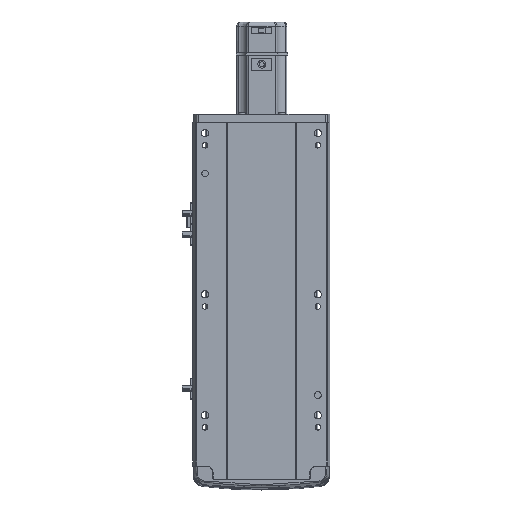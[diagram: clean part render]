
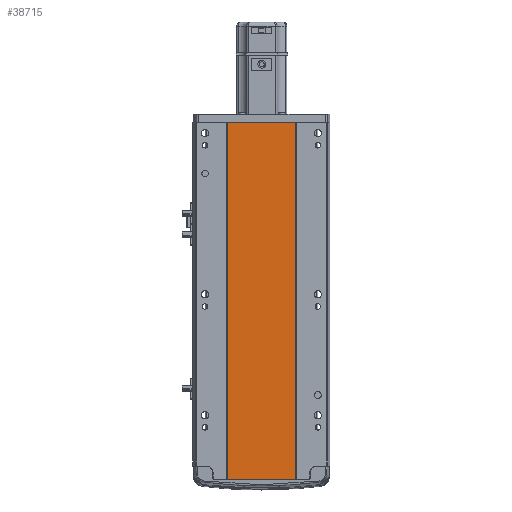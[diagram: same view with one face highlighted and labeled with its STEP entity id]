
A CAD part, front view. The second image highlights one B-rep face of the part: STEP entity #38715.
In plain terms, the highlighted planar face has unit normal (0, -1, 0).
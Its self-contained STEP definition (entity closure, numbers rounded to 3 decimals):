
#2747 = VERTEX_POINT ( 'NONE', #23897 ) ;
#3813 = CARTESIAN_POINT ( 'NONE',  ( 41.793, 0.998, 443.5 ) ) ;
#4052 = LINE ( 'NONE', #37102, #40891 ) ;
#4974 = VERTEX_POINT ( 'NONE', #12115 ) ;
#5576 = LINE ( 'NONE', #3813, #34946 ) ;
#6124 = CARTESIAN_POINT ( 'NONE',  ( 0., 0.999, 443.5 ) ) ;
#7493 = AXIS2_PLACEMENT_3D ( 'NONE', #43782, #36096, #18370 ) ;
#7911 = CARTESIAN_POINT ( 'NONE',  ( 41.793, 0.998, 0. ) ) ;
#9003 = LINE ( 'NONE', #30522, #38359 ) ;
#12115 = CARTESIAN_POINT ( 'NONE',  ( -41.791, 1., 443.5 ) ) ;
#12514 = EDGE_LOOP ( 'NONE', ( #40093, #43758, #28071, #26458 ) ) ;
#14465 = DIRECTION ( 'NONE',  ( 0., 0., -1. ) ) ;
#14552 = VERTEX_POINT ( 'NONE', #14683 ) ;
#14683 = CARTESIAN_POINT ( 'NONE',  ( -41.791, 1., 0. ) ) ;
#18200 = EDGE_CURVE ( 'NONE', #4974, #14552, #9003, .T. ) ;
#18370 = DIRECTION ( 'NONE',  ( -1., 0., 0. ) ) ;
#18637 = DIRECTION ( 'NONE',  ( 1., 0., 0. ) ) ;
#21639 = PLANE ( 'NONE',  #7493 ) ;
#22170 = EDGE_CURVE ( 'NONE', #14552, #30825, #4052, .T. ) ;
#23897 = CARTESIAN_POINT ( 'NONE',  ( 41.793, 0.998, 443.5 ) ) ;
#24029 = LINE ( 'NONE', #6124, #37197 ) ;
#25794 = EDGE_CURVE ( 'NONE', #4974, #2747, #24029, .T. ) ;
#26458 = ORIENTED_EDGE ( 'NONE', *, *, #18200, .T. ) ;
#28071 = ORIENTED_EDGE ( 'NONE', *, *, #25794, .F. ) ;
#30522 = CARTESIAN_POINT ( 'NONE',  ( -41.791, 1., 443.5 ) ) ;
#30825 = VERTEX_POINT ( 'NONE', #7911 ) ;
#31714 = DIRECTION ( 'NONE',  ( 1., 0., 0. ) ) ;
#34693 = DIRECTION ( 'NONE',  ( 0., 0., -1. ) ) ;
#34946 = VECTOR ( 'NONE', #14465, 1000. ) ;
#35586 = FACE_OUTER_BOUND ( 'NONE', #12514, .T. ) ;
#36096 = DIRECTION ( 'NONE',  ( 0., 1., 0. ) ) ;
#37102 = CARTESIAN_POINT ( 'NONE',  ( 0., 0.999, 0. ) ) ;
#37197 = VECTOR ( 'NONE', #31714, 1000. ) ;
#38359 = VECTOR ( 'NONE', #34693, 1000. ) ;
#38715 = ADVANCED_FACE ( 'NONE', ( #35586 ), #21639, .F. ) ;
#39556 = EDGE_CURVE ( 'NONE', #2747, #30825, #5576, .T. ) ;
#40093 = ORIENTED_EDGE ( 'NONE', *, *, #22170, .T. ) ;
#40891 = VECTOR ( 'NONE', #18637, 1000. ) ;
#43758 = ORIENTED_EDGE ( 'NONE', *, *, #39556, .F. ) ;
#43782 = CARTESIAN_POINT ( 'NONE',  ( 0., 0.999, 443.5 ) ) ;
